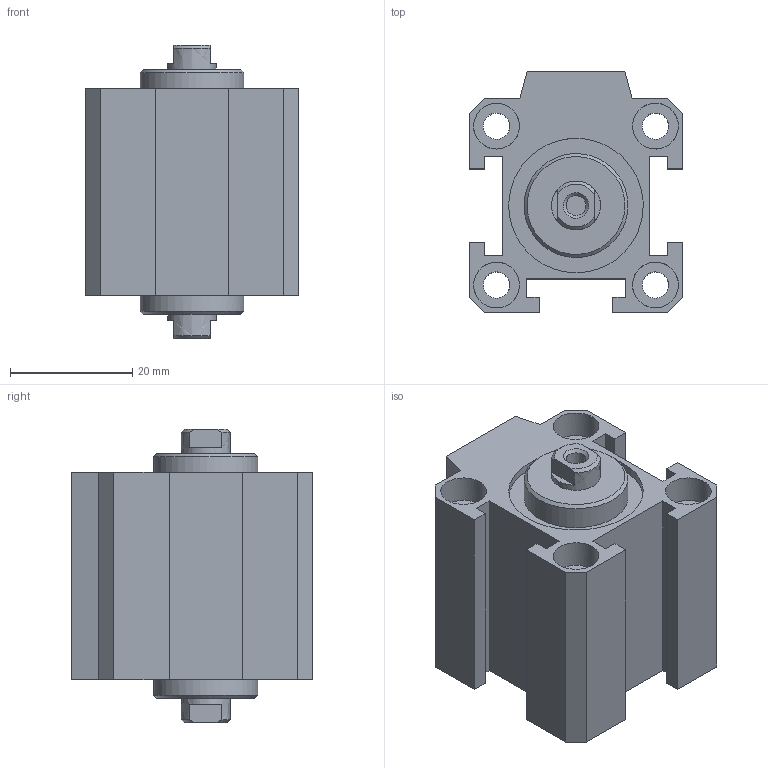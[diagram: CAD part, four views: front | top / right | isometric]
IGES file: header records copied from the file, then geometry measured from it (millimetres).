
Global section: file name: 1514_20_0000; native system: Autodesk Inventor 2014; preprocessor: unknown; author: A. Manieri; date: 20160824.110414; units: millimetre
Bounding box: 35 x 39.5 x 48 mm (x, y, z)
Volume: 32828.4 mm3; surface area: 16423.6 mm2
Topology: 2 solids, 2 shells, 104 faces, 272 edges, 192 vertices
Faces by surface type: bspline 104
